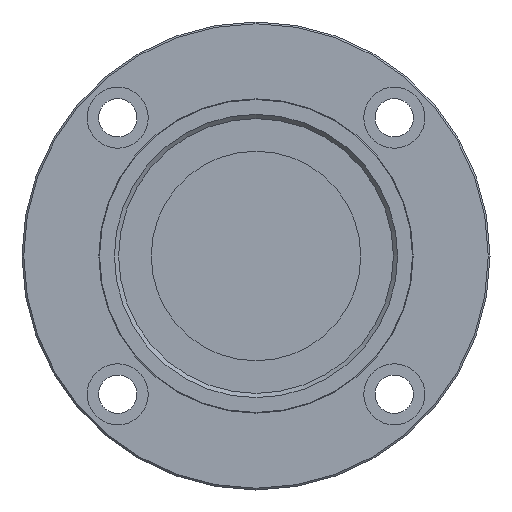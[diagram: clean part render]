
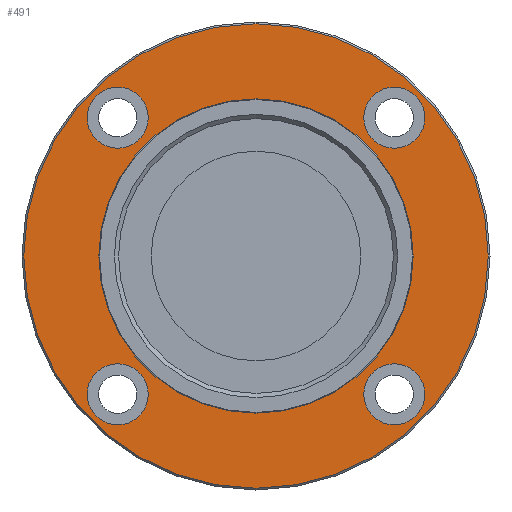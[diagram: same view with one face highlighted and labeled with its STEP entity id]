
A CAD part, front view. The second image highlights one B-rep face of the part: STEP entity #491.
In plain terms, the highlighted planar face has unit normal (0, -1, 0).
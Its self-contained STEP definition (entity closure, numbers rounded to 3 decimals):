
#101=CARTESIAN_POINT('',(-30.848,-105.5,-39.598));
#102=VERTEX_POINT('',#101);
#103=CARTESIAN_POINT('',(-39.598,-105.5,-39.598));
#104=DIRECTION('',(0.0,1.0,0.0));
#105=DIRECTION('',(1.0,0.0,0.0));
#106=AXIS2_PLACEMENT_3D('',#103,#104,#105);
#107=CIRCLE('',#106,8.75);
#108=EDGE_CURVE('',#102,#102,#107,.T.);
#169=CARTESIAN_POINT('',(48.348,-105.5,-39.598));
#170=VERTEX_POINT('',#169);
#171=CARTESIAN_POINT('',(39.598,-105.5,-39.598));
#172=DIRECTION('',(0.0,1.0,0.0));
#173=DIRECTION('',(1.0,0.0,0.0));
#174=AXIS2_PLACEMENT_3D('',#171,#172,#173);
#175=CIRCLE('',#174,8.75);
#176=EDGE_CURVE('',#170,#170,#175,.T.);
#237=CARTESIAN_POINT('',(48.348,-105.5,39.598));
#238=VERTEX_POINT('',#237);
#239=CARTESIAN_POINT('',(39.598,-105.5,39.598));
#240=DIRECTION('',(0.0,1.0,0.0));
#241=DIRECTION('',(1.0,0.0,0.0));
#242=AXIS2_PLACEMENT_3D('',#239,#240,#241);
#243=CIRCLE('',#242,8.75);
#244=EDGE_CURVE('',#238,#238,#243,.T.);
#305=CARTESIAN_POINT('',(-30.848,-105.5,39.598));
#306=VERTEX_POINT('',#305);
#307=CARTESIAN_POINT('',(-39.598,-105.5,39.598));
#308=DIRECTION('',(0.0,1.0,0.0));
#309=DIRECTION('',(1.0,0.0,0.0));
#310=AXIS2_PLACEMENT_3D('',#307,#308,#309);
#311=CIRCLE('',#310,8.75);
#312=EDGE_CURVE('',#306,#306,#311,.T.);
#345=CARTESIAN_POINT('',(45.,-105.5,0.0));
#346=VERTEX_POINT('',#345);
#347=CARTESIAN_POINT('',(0.0,-105.5,0.0));
#348=DIRECTION('',(0.0,-1.0,0.0));
#349=DIRECTION('',(1.0,0.0,0.0));
#350=AXIS2_PLACEMENT_3D('',#347,#348,#349);
#351=CIRCLE('',#350,45.);
#352=EDGE_CURVE('',#346,#346,#351,.T.);
#453=CARTESIAN_POINT('',(66.5,-105.5,0.0));
#454=VERTEX_POINT('',#453);
#455=CARTESIAN_POINT('',(0.0,-105.5,0.0));
#456=DIRECTION('',(0.0,-1.0,0.0));
#457=DIRECTION('',(1.0,0.0,0.0));
#458=AXIS2_PLACEMENT_3D('',#455,#456,#457);
#459=CIRCLE('',#458,66.5);
#460=EDGE_CURVE('',#454,#454,#459,.T.);
#468=CARTESIAN_POINT('',(55.75,-105.5,0.0));
#469=DIRECTION('',(0.0,-1.0,0.0));
#470=DIRECTION('',(0.0,0.0,-1.0));
#471=AXIS2_PLACEMENT_3D('',#468,#469,#470);
#472=PLANE('',#471);
#473=ORIENTED_EDGE('',*,*,#460,.T.);
#474=EDGE_LOOP('',(#473));
#475=FACE_OUTER_BOUND('',#474,.T.);
#476=ORIENTED_EDGE('',*,*,#108,.T.);
#477=EDGE_LOOP('',(#476));
#478=FACE_BOUND('',#477,.T.);
#479=ORIENTED_EDGE('',*,*,#176,.T.);
#480=EDGE_LOOP('',(#479));
#481=FACE_BOUND('',#480,.T.);
#482=ORIENTED_EDGE('',*,*,#244,.T.);
#483=EDGE_LOOP('',(#482));
#484=FACE_BOUND('',#483,.T.);
#485=ORIENTED_EDGE('',*,*,#312,.T.);
#486=EDGE_LOOP('',(#485));
#487=FACE_BOUND('',#486,.T.);
#488=ORIENTED_EDGE('',*,*,#352,.F.);
#489=EDGE_LOOP('',(#488));
#490=FACE_BOUND('',#489,.T.);
#491=ADVANCED_FACE('',(#475,#478,#481,#484,#487,#490),#472,.T.);
